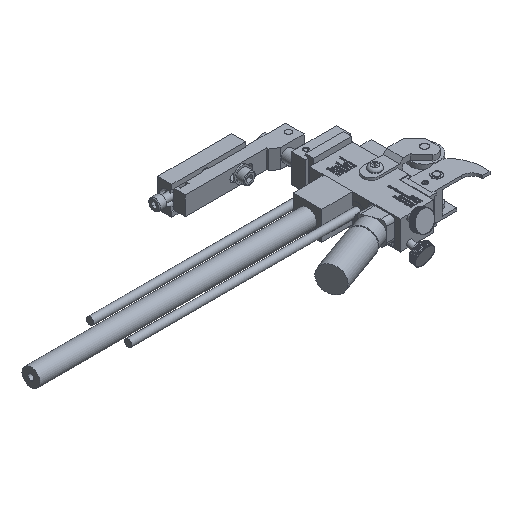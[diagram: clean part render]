
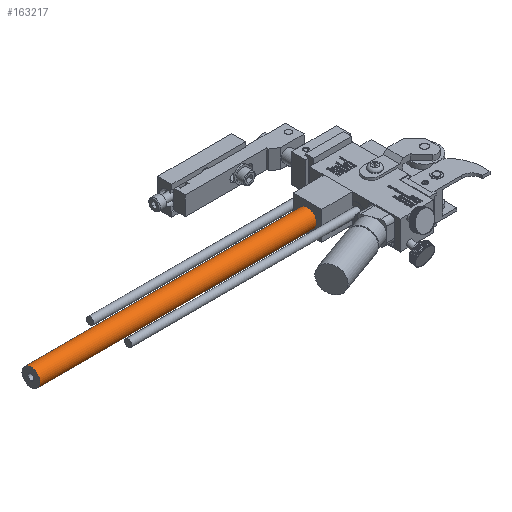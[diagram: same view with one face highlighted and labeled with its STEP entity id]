
A CAD part, isometric view. The second image highlights one B-rep face of the part: STEP entity #163217.
In plain terms, the highlighted cylindrical face has radius 5.969 mm (diameter 11.938 mm), a full revolution.
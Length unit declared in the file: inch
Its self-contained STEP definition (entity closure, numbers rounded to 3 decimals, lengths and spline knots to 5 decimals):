
#162895=CARTESIAN_POINT('',(-1.4995,0.8125,0.61));
#162896=VERTEX_POINT('',#162895);
#162897=CARTESIAN_POINT('',(-1.4995,0.8125,0.375));
#162898=DIRECTION('',(1.0,0.0,0.0));
#162899=DIRECTION('',(0.0,0.0,-1.0));
#162900=AXIS2_PLACEMENT_3D('',#162897,#162898,#162899);
#162901=CIRCLE('',#162900,0.235);
#162902=EDGE_CURVE('',#162896,#162896,#162901,.T.);
#163183=CARTESIAN_POINT('',(-8.7495,0.8125,0.61));
#163184=VERTEX_POINT('',#163183);
#163185=CARTESIAN_POINT('',(-8.7495,0.8125,0.375));
#163186=DIRECTION('',(1.0,0.0,0.0));
#163187=DIRECTION('',(0.0,0.0,-1.0));
#163188=AXIS2_PLACEMENT_3D('',#163185,#163186,#163187);
#163189=CIRCLE('',#163188,0.235);
#163190=EDGE_CURVE('',#163184,#163184,#163189,.T.);
#163206=CARTESIAN_POINT('',(-1.4995,0.8125,0.375));
#163207=DIRECTION('',(-1.0,0.,0.));
#163208=DIRECTION('',(0.0,0.0,-1.0));
#163209=AXIS2_PLACEMENT_3D('',#163206,#163207,#163208);
#163210=CYLINDRICAL_SURFACE('',#163209,0.235);
#163211=ORIENTED_EDGE('',*,*,#163190,.T.);
#163212=EDGE_LOOP('',(#163211));
#163213=FACE_OUTER_BOUND('',#163212,.T.);
#163214=ORIENTED_EDGE('',*,*,#162902,.F.);
#163215=EDGE_LOOP('',(#163214));
#163216=FACE_BOUND('',#163215,.T.);
#163217=ADVANCED_FACE('',(#163213,#163216),#163210,.T.);
